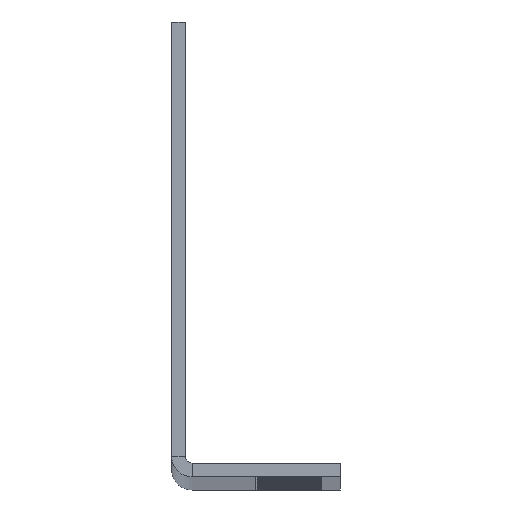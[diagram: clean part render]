
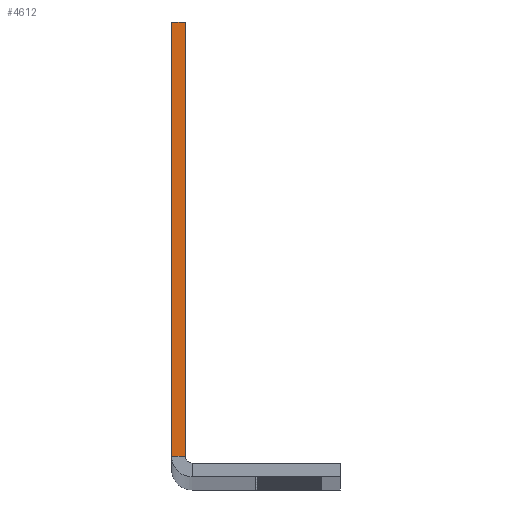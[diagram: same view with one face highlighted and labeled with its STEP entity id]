
A CAD part, top view. The second image highlights one B-rep face of the part: STEP entity #4612.
In plain terms, the highlighted planar face has unit normal (0, 0, 1).
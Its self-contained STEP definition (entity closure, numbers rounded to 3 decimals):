
#469 = DIRECTION ( 'NONE',  ( 1., 0., 0. ) ) ;
#2060 = CARTESIAN_POINT ( 'NONE',  ( 2., 3., 1095. ) ) ;
#2080 = VERTEX_POINT ( 'NONE', #2060 ) ;
#2967 = CARTESIAN_POINT ( 'NONE',  ( 0., 66., 1095. ) ) ;
#4612 = ADVANCED_FACE ( 'NONE', ( #26976 ), #8369, .T. ) ;
#5720 = VECTOR ( 'NONE', #19487, 1000. ) ;
#6425 = VECTOR ( 'NONE', #24618, 1000. ) ;
#7712 = EDGE_CURVE ( 'NONE', #13423, #2080, #11508, .T. ) ;
#8369 = PLANE ( 'NONE',  #28164 ) ;
#8617 = DIRECTION ( 'NONE',  ( 0., 0., 1. ) ) ;
#11107 = LINE ( 'NONE', #18729, #24331 ) ;
#11508 = LINE ( 'NONE', #16963, #5720 ) ;
#12301 = CARTESIAN_POINT ( 'NONE',  ( 2., 66., 1095. ) ) ;
#13308 = VERTEX_POINT ( 'NONE', #12301 ) ;
#13423 = VERTEX_POINT ( 'NONE', #29740 ) ;
#13447 = LINE ( 'NONE', #30473, #6425 ) ;
#13593 = CARTESIAN_POINT ( 'NONE',  ( 3., 2., 1095. ) ) ;
#14171 = EDGE_LOOP ( 'NONE', ( #18669, #17857, #19664, #21278 ) ) ;
#14615 = VERTEX_POINT ( 'NONE', #2967 ) ;
#15823 = EDGE_CURVE ( 'NONE', #2080, #13308, #11107, .T. ) ;
#16139 = DIRECTION ( 'NONE',  ( 1., 0., 0. ) ) ;
#16963 = CARTESIAN_POINT ( 'NONE',  ( 0., 3., 1095. ) ) ;
#17857 = ORIENTED_EDGE ( 'NONE', *, *, #7712, .T. ) ;
#18669 = ORIENTED_EDGE ( 'NONE', *, *, #27336, .F. ) ;
#18729 = CARTESIAN_POINT ( 'NONE',  ( 2., 0., 1095. ) ) ;
#19487 = DIRECTION ( 'NONE',  ( 1., 0., 0. ) ) ;
#19664 = ORIENTED_EDGE ( 'NONE', *, *, #15823, .T. ) ;
#21278 = ORIENTED_EDGE ( 'NONE', *, *, #32174, .F. ) ;
#22472 = VECTOR ( 'NONE', #469, 1000. ) ;
#23333 = LINE ( 'NONE', #31646, #22472 ) ;
#24061 = DIRECTION ( 'NONE',  ( 0., 1., 0. ) ) ;
#24331 = VECTOR ( 'NONE', #24061, 1000. ) ;
#24618 = DIRECTION ( 'NONE',  ( 0., 1., 0. ) ) ;
#26976 = FACE_OUTER_BOUND ( 'NONE', #14171, .T. ) ;
#27336 = EDGE_CURVE ( 'NONE', #13423, #14615, #13447, .T. ) ;
#28164 = AXIS2_PLACEMENT_3D ( 'NONE', #13593, #8617, #16139 ) ;
#29740 = CARTESIAN_POINT ( 'NONE',  ( 0., 3., 1095. ) ) ;
#30473 = CARTESIAN_POINT ( 'NONE',  ( 0., 0., 1095. ) ) ;
#31646 = CARTESIAN_POINT ( 'NONE',  ( 0., 66., 1095. ) ) ;
#32174 = EDGE_CURVE ( 'NONE', #14615, #13308, #23333, .T. ) ;
